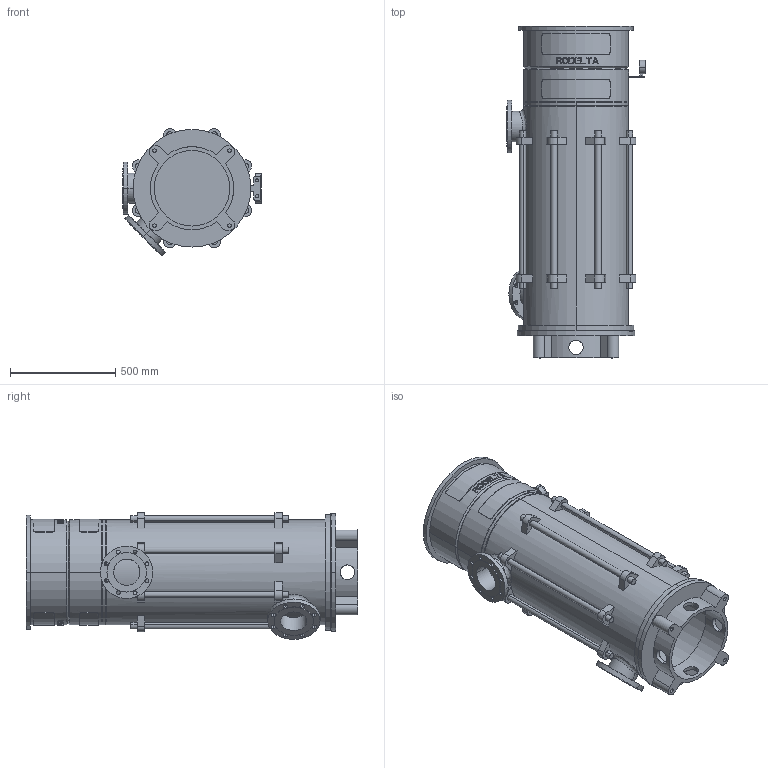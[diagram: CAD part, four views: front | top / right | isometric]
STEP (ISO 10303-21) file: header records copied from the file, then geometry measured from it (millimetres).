
FILE_DESCRIPTION((''),'2;1');
FILE_NAME('LS5_6TR_0GR_ABOVE_30KW','2023-08-08T',('Lyritlocal'),(''),'PRO/ENGINEER BY PARAMETRIC TECHNOLOGY CORPORATION, 2016360','PRO/ENGINEER BY PARAMETRIC TECHNOLOGY CORPORATION, 2016360','');
FILE_SCHEMA(('CONFIG_CONTROL_DESIGN'));
Length unit declared in the file: millimetre
Products named in the file (1): LS5_6TR_0GR_ABOVE_30KW
Bounding box: 660 x 1580 x 603.65 mm (x, y, z)
Volume: 46767377.6 mm3; surface area: 6926327.5 mm2
Topology: 3 solids, 7 shells, 672 faces, 1747 edges, 1158 vertices
Faces by surface type: plane 414, cylinder 242, cone 12, bspline 4
Entity records: 21887 total; most frequent: CARTESIAN_POINT 5443, ORIENTED_EDGE 3478, DIRECTION 3269, EDGE_CURVE 1747, AXIS2_PLACEMENT_3D 1241, VERTEX_POINT 1158, EDGE_LOOP 809, VECTOR 787
